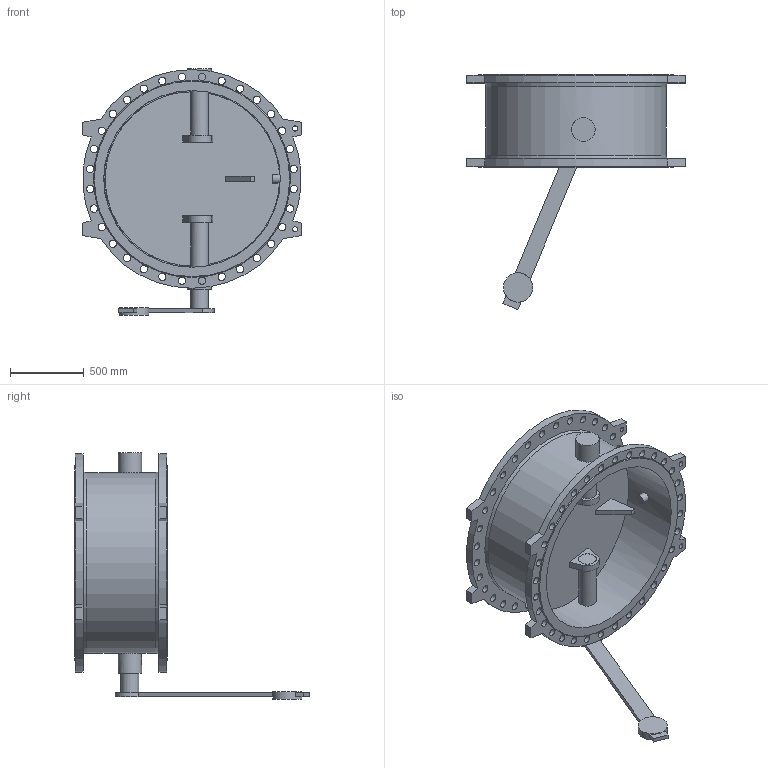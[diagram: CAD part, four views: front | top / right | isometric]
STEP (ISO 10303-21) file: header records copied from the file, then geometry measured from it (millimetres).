
FILE_DESCRIPTION(('STEP AP203'), '1');
FILE_NAME('Êëàïàí 015F.PV DN1200 PN16 ñ ïðîòèâîâåñîì', '', ('UNSPECIFIED'), ('UNSPECIFIED'), 'ASCON STEP Converter 1.6', 'ASCON Math Kernel', '');
FILE_SCHEMA(('CONFIG_CONTROL_DESIGN'));
Length unit declared in the file: millimetre
Bounding box: 1485 x 1595 x 1678 mm (x, y, z)
Volume: 122339222.5 mm3; surface area: 11014810.2 mm2
Topology: 1 solids, 1 shells, 160 faces, 426 edges, 283 vertices
Faces by surface type: cylinder 90, plane 63, cone 4, extrusion 2, bspline 1
Full cylindrical faces by diameter (mm): 35 x4, 50 x64, 60 x1, 120 x3, 122 x2, 160 x2, 200 x1, 1200 x1, 1226 x1
Entity records: 7181 total; most frequent: CARTESIAN_POINT 1794, DIRECTION 822, ORIENTED_EDGE 672, EDGE_LOOP 406, AXIS2_PLACEMENT_3D 345, EDGE_CURVE 336, VERTEX_POINT 282, FACE_BOUND 238
